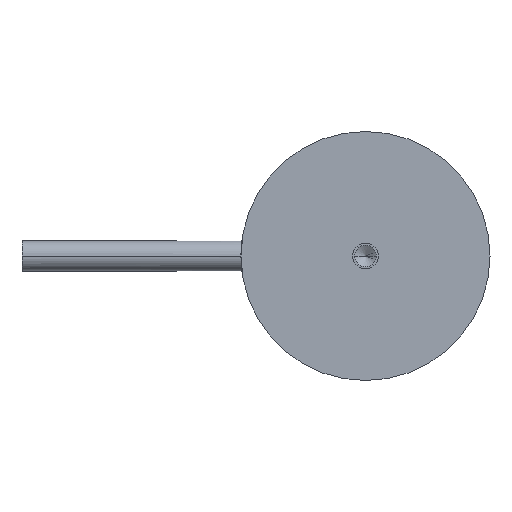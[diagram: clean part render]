
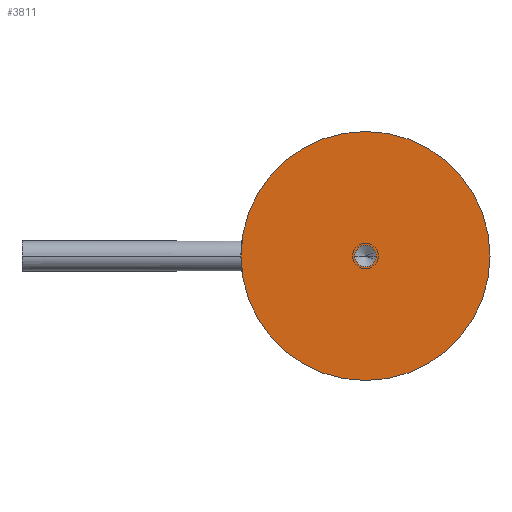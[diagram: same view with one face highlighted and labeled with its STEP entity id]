
A CAD part, left-side view. The second image highlights one B-rep face of the part: STEP entity #3811.
In plain terms, the highlighted planar face has unit normal (-1, 0, 0).
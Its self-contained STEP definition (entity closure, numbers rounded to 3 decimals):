
#1406=CARTESIAN_POINT('',(0.,0.,0.));
#1407=DIRECTION('',(1.,0.,0.));
#1408=DIRECTION('',(0.,-1.,0.));
#1409=AXIS2_PLACEMENT_3D('',#1406,#1407,#1408);
#1411=CARTESIAN_POINT('',(0.,0.,0.));
#1412=DIRECTION('',(1.,0.,0.));
#1413=DIRECTION('',(0.,1.,0.));
#1414=AXIS2_PLACEMENT_3D('',#1411,#1412,#1413);
#1416=CARTESIAN_POINT('',(0.,0.,0.));
#1417=DIRECTION('',(-1.,0.,0.));
#1418=DIRECTION('',(0.,1.,0.));
#1419=AXIS2_PLACEMENT_3D('',#1416,#1417,#1418);
#1421=CARTESIAN_POINT('',(0.,0.,0.));
#1422=DIRECTION('',(-1.,0.,0.));
#1423=DIRECTION('',(0.,-1.,0.));
#1424=AXIS2_PLACEMENT_3D('',#1421,#1422,#1423);
#1452=CARTESIAN_POINT('',(0.,-14.5,0.));
#1453=CARTESIAN_POINT('',(0.,14.5,0.));
#1454=VERTEX_POINT('',#1452);
#1455=VERTEX_POINT('',#1453);
#1682=CARTESIAN_POINT('',(0.,1.25,0.));
#1683=CARTESIAN_POINT('',(0.,-1.25,0.));
#1684=VERTEX_POINT('',#1682);
#1685=VERTEX_POINT('',#1683);
#3796=CARTESIAN_POINT('',(0.,0.,0.));
#3797=DIRECTION('',(1.,0.,0.));
#3798=DIRECTION('',(0.,-1.,0.));
#3799=AXIS2_PLACEMENT_3D('',#3796,#3797,#3798);
#3800=PLANE('',#3799);
#3801=ORIENTED_EDGE('',*,*,#2779,.T.);
#3802=ORIENTED_EDGE('',*,*,#1971,.T.);
#3803=EDGE_LOOP('',(#3801,#3802));
#3804=FACE_OUTER_BOUND('',#3803,.F.);
#3806=ORIENTED_EDGE('',*,*,#3805,.T.);
#3808=ORIENTED_EDGE('',*,*,#3807,.T.);
#3809=EDGE_LOOP('',(#3806,#3808));
#3810=FACE_BOUND('',#3809,.F.);
#1410=CIRCLE('',#1409,14.5);
#1415=CIRCLE('',#1414,14.5);
#1420=CIRCLE('',#1419,1.25);
#1425=CIRCLE('',#1424,1.25);
#1971=EDGE_CURVE('',#1455,#1454,#1415,.T.);
#2779=EDGE_CURVE('',#1454,#1455,#1410,.T.);
#3805=EDGE_CURVE('',#1684,#1685,#1420,.T.);
#3807=EDGE_CURVE('',#1685,#1684,#1425,.T.);
#3811=ADVANCED_FACE('',(#3804,#3810),#3800,.F.);
